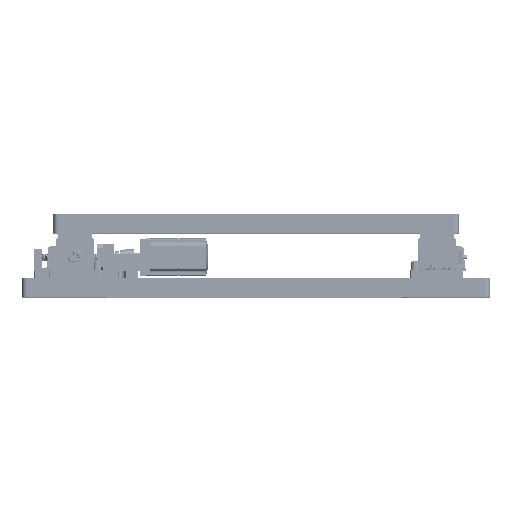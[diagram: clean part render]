
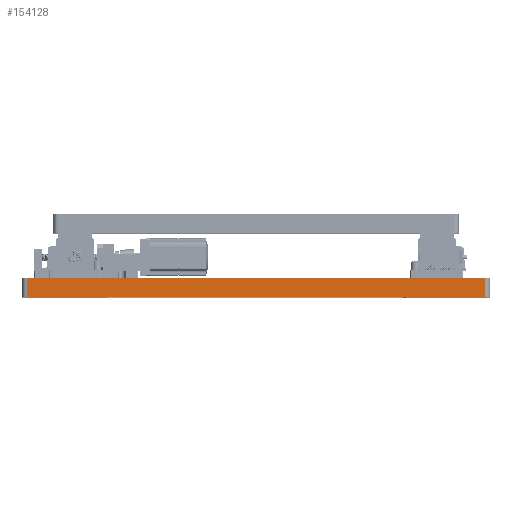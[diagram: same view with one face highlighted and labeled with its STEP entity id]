
A CAD part, top view. The second image highlights one B-rep face of the part: STEP entity #154128.
In plain terms, the highlighted planar face has unit normal (0, 0, 1).
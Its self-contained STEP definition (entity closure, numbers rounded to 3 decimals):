
#2743 = PLANE ( 'NONE',  #26705 ) ;
#3776 = VECTOR ( 'NONE', #342251, 1000. ) ;
#23588 = CARTESIAN_POINT ( 'NONE',  ( -367., 30., 375. ) ) ;
#26705 = AXIS2_PLACEMENT_3D ( 'NONE', #400810, #50633, #75975 ) ;
#26947 = VECTOR ( 'NONE', #102958, 1000. ) ;
#30105 = ORIENTED_EDGE ( 'NONE', *, *, #66248, .F. ) ;
#35857 = LINE ( 'NONE', #329187, #26947 ) ;
#45301 = VERTEX_POINT ( 'NONE', #226406 ) ;
#50633 = DIRECTION ( 'NONE',  ( 0., 0., -1. ) ) ;
#57221 = ORIENTED_EDGE ( 'NONE', *, *, #74931, .T. ) ;
#66248 = EDGE_CURVE ( 'NONE', #45301, #111387, #377750, .T. ) ;
#73105 = CARTESIAN_POINT ( 'NONE',  ( 367., 30., 375. ) ) ;
#74931 = EDGE_CURVE ( 'NONE', #45301, #277808, #161735, .T. ) ;
#75975 = DIRECTION ( 'NONE',  ( -1., 0., 0. ) ) ;
#102958 = DIRECTION ( 'NONE',  ( 1., 0., 0. ) ) ;
#111387 = VERTEX_POINT ( 'NONE', #200911 ) ;
#151278 = EDGE_LOOP ( 'NONE', ( #396990, #240422, #30105, #57221 ) ) ;
#154128 = ADVANCED_FACE ( 'NONE', ( #289899 ), #2743, .F. ) ;
#161735 = LINE ( 'NONE', #264162, #209190 ) ;
#200911 = CARTESIAN_POINT ( 'NONE',  ( -367., 30., 375. ) ) ;
#209190 = VECTOR ( 'NONE', #230567, 1000. ) ;
#218434 = EDGE_CURVE ( 'NONE', #111387, #326624, #35857, .T. ) ;
#226406 = CARTESIAN_POINT ( 'NONE',  ( -367., 0., 375. ) ) ;
#230567 = DIRECTION ( 'NONE',  ( 1., 0., 0. ) ) ;
#240422 = ORIENTED_EDGE ( 'NONE', *, *, #218434, .F. ) ;
#264162 = CARTESIAN_POINT ( 'NONE',  ( -367., 0., 375. ) ) ;
#271493 = VECTOR ( 'NONE', #366217, 1000. ) ;
#277808 = VERTEX_POINT ( 'NONE', #304194 ) ;
#289899 = FACE_OUTER_BOUND ( 'NONE', #151278, .T. ) ;
#304194 = CARTESIAN_POINT ( 'NONE',  ( 367., 0., 375. ) ) ;
#326624 = VERTEX_POINT ( 'NONE', #387737 ) ;
#329187 = CARTESIAN_POINT ( 'NONE',  ( -367., 30., 375. ) ) ;
#341071 = EDGE_CURVE ( 'NONE', #326624, #277808, #360052, .T. ) ;
#342251 = DIRECTION ( 'NONE',  ( 0., 1., 0. ) ) ;
#360052 = LINE ( 'NONE', #73105, #271493 ) ;
#366217 = DIRECTION ( 'NONE',  ( 0., -1., 0. ) ) ;
#377750 = LINE ( 'NONE', #23588, #3776 ) ;
#387737 = CARTESIAN_POINT ( 'NONE',  ( 367., 30., 375. ) ) ;
#396990 = ORIENTED_EDGE ( 'NONE', *, *, #341071, .F. ) ;
#400810 = CARTESIAN_POINT ( 'NONE',  ( -367., 30., 375. ) ) ;
